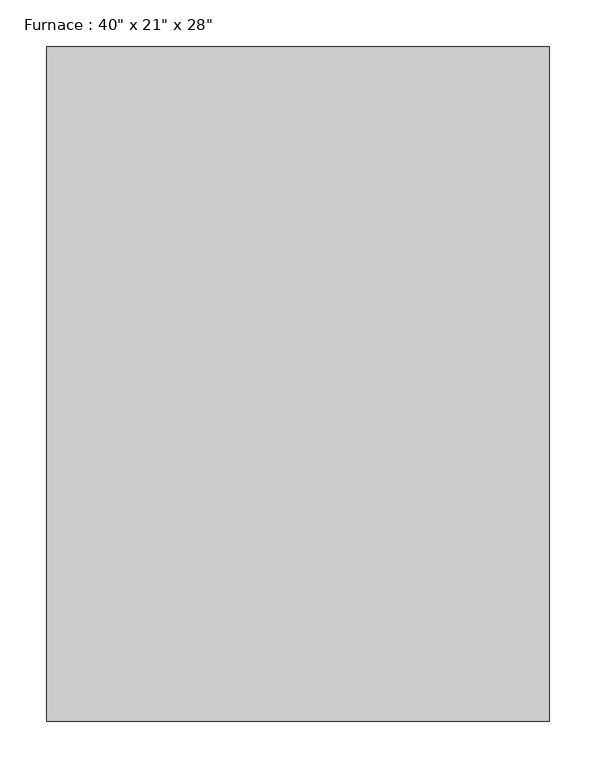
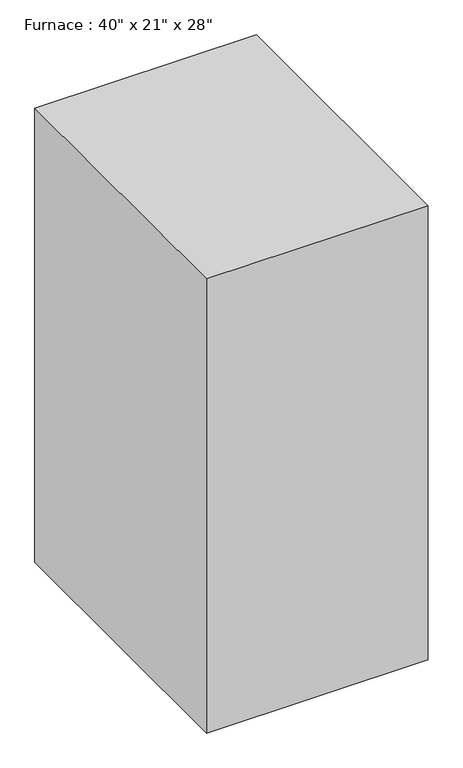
"""IFC4 building model written with IfcOpenShell, lengths in millimetres: proxy geometry."""

from ifc_helpers import new_model, si_unit, origin, origin_with_axes, place, context, project, spatial, polyline, outline, extrude, source, transform, mapped, element, save


def proxy_a3865931(model_context):
    return source(origin(), model_context, "Body", "SweptSolid", [
        extrude(outline(polyline([(269.875, -361.95), (-269.875, -361.95), (-269.875, 361.95), (269.875, 361.95), (269.875, -361.95)])), origin_with_axes(), (0.0, 0.0, 1.0), 1168.4),
    ])


if __name__ == "__main__":
    model = new_model("IFC4")
    model_context = context("Model", 3, world=origin())
    ifc_project = project(units=[si_unit("LENGTHUNIT", "METRE", prefix="MILLI")], contexts=[model_context])
    site = spatial("IfcSite", under=ifc_project)
    building = spatial("IfcBuilding", under=site)
    placement = place(None, origin())
    proxy_shape = proxy_a3865931(model_context)
    element("IfcBuildingElementProxy", 1, Name="Furnace : 40\" x 21\" x 28\"", ObjectType="Furnace : 40\" x 21\" x 28\"", at=placement, inside=building, context=model_context, shape_type="MappedRepresentation", body=[
        mapped(proxy_shape, transform((0.0, 0.0, 0.0), x_axis=(1.0, 0.0, 0.0), y_axis=(0.0, 1.0, 0.0), z_axis=(0.0, 0.0, 1.0))),
    ])
    save(model, "model.ifc")
